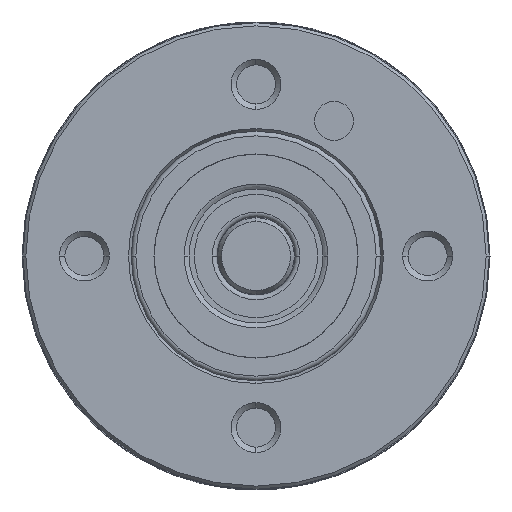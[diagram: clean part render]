
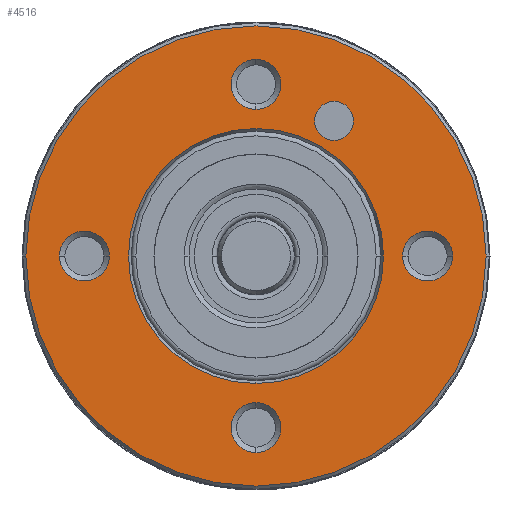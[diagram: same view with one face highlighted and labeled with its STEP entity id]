
A CAD part, left-side view. The second image highlights one B-rep face of the part: STEP entity #4516.
In plain terms, the highlighted planar face has unit normal (-1, 0, 0).
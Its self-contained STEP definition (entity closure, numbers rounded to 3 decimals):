
#528=CARTESIAN_POINT('',(-2.1,0.,0.));
#529=DIRECTION('',(-1.,0.,0.));
#530=DIRECTION('',(0.,1.,0.));
#531=AXIS2_PLACEMENT_3D('',#528,#529,#530);
#536=CARTESIAN_POINT('',(-2.1,0.,0.));
#537=DIRECTION('',(-1.,0.,0.));
#538=DIRECTION('',(0.,-1.,0.));
#539=AXIS2_PLACEMENT_3D('',#536,#537,#538);
#544=CARTESIAN_POINT('',(-2.1,0.,0.));
#545=DIRECTION('',(1.,0.,0.));
#546=DIRECTION('',(0.,0.,1.));
#547=AXIS2_PLACEMENT_3D('',#544,#545,#546);
#552=CARTESIAN_POINT('',(-2.1,0.,0.));
#553=DIRECTION('',(1.,0.,0.));
#554=DIRECTION('',(0.,0.,-1.));
#555=AXIS2_PLACEMENT_3D('',#552,#553,#554);
#560=CARTESIAN_POINT('',(-2.1,0.,-11.));
#561=DIRECTION('',(-1.,0.,0.));
#562=DIRECTION('',(0.,0.,1.));
#563=AXIS2_PLACEMENT_3D('',#560,#561,#562);
#568=CARTESIAN_POINT('',(-2.1,0.,-11.));
#569=DIRECTION('',(-1.,0.,0.));
#570=DIRECTION('',(0.,0.,-1.));
#571=AXIS2_PLACEMENT_3D('',#568,#569,#570);
#576=CARTESIAN_POINT('',(-2.1,11.,0.));
#577=DIRECTION('',(-1.,0.,0.));
#578=DIRECTION('',(0.,-1.,0.));
#579=AXIS2_PLACEMENT_3D('',#576,#577,#578);
#584=CARTESIAN_POINT('',(-2.1,11.,0.));
#585=DIRECTION('',(-1.,0.,0.));
#586=DIRECTION('',(0.,1.,0.));
#587=AXIS2_PLACEMENT_3D('',#584,#585,#586);
#592=CARTESIAN_POINT('',(-2.1,0.,11.));
#593=DIRECTION('',(-1.,0.,0.));
#594=DIRECTION('',(0.,0.,-1.));
#595=AXIS2_PLACEMENT_3D('',#592,#593,#594);
#600=CARTESIAN_POINT('',(-2.1,0.,11.));
#601=DIRECTION('',(-1.,0.,0.));
#602=DIRECTION('',(0.,0.,1.));
#603=AXIS2_PLACEMENT_3D('',#600,#601,#602);
#608=CARTESIAN_POINT('',(-2.1,-11.,0.));
#609=DIRECTION('',(-1.,0.,0.));
#610=DIRECTION('',(0.,1.,0.));
#611=AXIS2_PLACEMENT_3D('',#608,#609,#610);
#616=CARTESIAN_POINT('',(-2.1,-11.,0.));
#617=DIRECTION('',(-1.,0.,0.));
#618=DIRECTION('',(0.,-1.,0.));
#619=AXIS2_PLACEMENT_3D('',#616,#617,#618);
#624=CARTESIAN_POINT('',(-2.1,-5.,8.66));
#625=DIRECTION('',(1.,0.,0.));
#626=DIRECTION('',(0.,0.,1.));
#627=AXIS2_PLACEMENT_3D('',#624,#625,#626);
#632=CARTESIAN_POINT('',(-2.1,-5.,8.66));
#633=DIRECTION('',(1.,0.,0.));
#634=DIRECTION('',(0.,0.,-1.));
#635=AXIS2_PLACEMENT_3D('',#632,#633,#634);
#3535=CARTESIAN_POINT('',(-2.1,0.,8.173));
#3536=CARTESIAN_POINT('',(-2.1,0.,-8.173));
#3537=VERTEX_POINT('',#3535);
#3538=VERTEX_POINT('',#3536);
#3543=CARTESIAN_POINT('',(-2.1,0.,-9.4));
#3544=CARTESIAN_POINT('',(-2.1,0.,-12.6));
#3545=VERTEX_POINT('',#3543);
#3546=VERTEX_POINT('',#3544);
#3551=CARTESIAN_POINT('',(-2.1,9.4,0.));
#3552=CARTESIAN_POINT('',(-2.1,12.6,0.));
#3553=VERTEX_POINT('',#3551);
#3554=VERTEX_POINT('',#3552);
#3559=CARTESIAN_POINT('',(-2.1,0.,9.4));
#3560=CARTESIAN_POINT('',(-2.1,0.,12.6));
#3561=VERTEX_POINT('',#3559);
#3562=VERTEX_POINT('',#3560);
#3567=CARTESIAN_POINT('',(-2.1,-9.4,0.));
#3568=CARTESIAN_POINT('',(-2.1,-12.6,0.));
#3569=VERTEX_POINT('',#3567);
#3570=VERTEX_POINT('',#3568);
#3571=CARTESIAN_POINT('',(-2.1,14.75,0.));
#3572=CARTESIAN_POINT('',(-2.1,-14.75,0.));
#3573=VERTEX_POINT('',#3571);
#3574=VERTEX_POINT('',#3572);
#3583=CARTESIAN_POINT('',(-2.1,-5.,9.91));
#3584=CARTESIAN_POINT('',(-2.1,-5.,7.41));
#3585=VERTEX_POINT('',#3583);
#3586=VERTEX_POINT('',#3584);
#4470=CARTESIAN_POINT('',(-2.1,0.,0.));
#4471=DIRECTION('',(1.,0.,0.));
#4472=DIRECTION('',(0.,1.,0.));
#4473=AXIS2_PLACEMENT_3D('',#4470,#4471,#4472);
#4474=PLANE('',#4473);
#4475=ORIENTED_EDGE('',*,*,#4453,.F.);
#4477=ORIENTED_EDGE('',*,*,#4476,.F.);
#4478=EDGE_LOOP('',(#4475,#4477));
#4479=FACE_OUTER_BOUND('',#4478,.F.);
#4481=ORIENTED_EDGE('',*,*,#4480,.F.);
#4483=ORIENTED_EDGE('',*,*,#4482,.F.);
#4484=EDGE_LOOP('',(#4481,#4483));
#4485=FACE_BOUND('',#4484,.F.);
#4487=ORIENTED_EDGE('',*,*,#4486,.T.);
#4489=ORIENTED_EDGE('',*,*,#4488,.T.);
#4490=EDGE_LOOP('',(#4487,#4489));
#4491=FACE_BOUND('',#4490,.F.);
#4493=ORIENTED_EDGE('',*,*,#4492,.T.);
#4495=ORIENTED_EDGE('',*,*,#4494,.T.);
#4496=EDGE_LOOP('',(#4493,#4495));
#4497=FACE_BOUND('',#4496,.F.);
#4499=ORIENTED_EDGE('',*,*,#4498,.T.);
#4501=ORIENTED_EDGE('',*,*,#4500,.T.);
#4502=EDGE_LOOP('',(#4499,#4501));
#4503=FACE_BOUND('',#4502,.F.);
#4505=ORIENTED_EDGE('',*,*,#4504,.T.);
#4507=ORIENTED_EDGE('',*,*,#4506,.T.);
#4508=EDGE_LOOP('',(#4505,#4507));
#4509=FACE_BOUND('',#4508,.F.);
#4511=ORIENTED_EDGE('',*,*,#4510,.F.);
#4513=ORIENTED_EDGE('',*,*,#4512,.F.);
#4514=EDGE_LOOP('',(#4511,#4513));
#4515=FACE_BOUND('',#4514,.F.);
#4516=ADVANCED_FACE('',(#4479,#4485,#4491,#4497,#4503,#4509,#4515),#4474,.F.);
#532=CIRCLE('',#531,14.75);
#540=CIRCLE('',#539,14.75);
#548=CIRCLE('',#547,8.173);
#556=CIRCLE('',#555,8.173);
#564=CIRCLE('',#563,1.6);
#572=CIRCLE('',#571,1.6);
#580=CIRCLE('',#579,1.6);
#588=CIRCLE('',#587,1.6);
#596=CIRCLE('',#595,1.6);
#604=CIRCLE('',#603,1.6);
#612=CIRCLE('',#611,1.6);
#620=CIRCLE('',#619,1.6);
#628=CIRCLE('',#627,1.25);
#636=CIRCLE('',#635,1.25);
#4453=EDGE_CURVE('',#3573,#3574,#532,.T.);
#4476=EDGE_CURVE('',#3574,#3573,#540,.T.);
#4480=EDGE_CURVE('',#3537,#3538,#548,.T.);
#4482=EDGE_CURVE('',#3538,#3537,#556,.T.);
#4486=EDGE_CURVE('',#3545,#3546,#564,.T.);
#4488=EDGE_CURVE('',#3546,#3545,#572,.T.);
#4492=EDGE_CURVE('',#3553,#3554,#580,.T.);
#4494=EDGE_CURVE('',#3554,#3553,#588,.T.);
#4498=EDGE_CURVE('',#3561,#3562,#596,.T.);
#4500=EDGE_CURVE('',#3562,#3561,#604,.T.);
#4504=EDGE_CURVE('',#3569,#3570,#612,.T.);
#4506=EDGE_CURVE('',#3570,#3569,#620,.T.);
#4510=EDGE_CURVE('',#3585,#3586,#628,.T.);
#4512=EDGE_CURVE('',#3586,#3585,#636,.T.);
